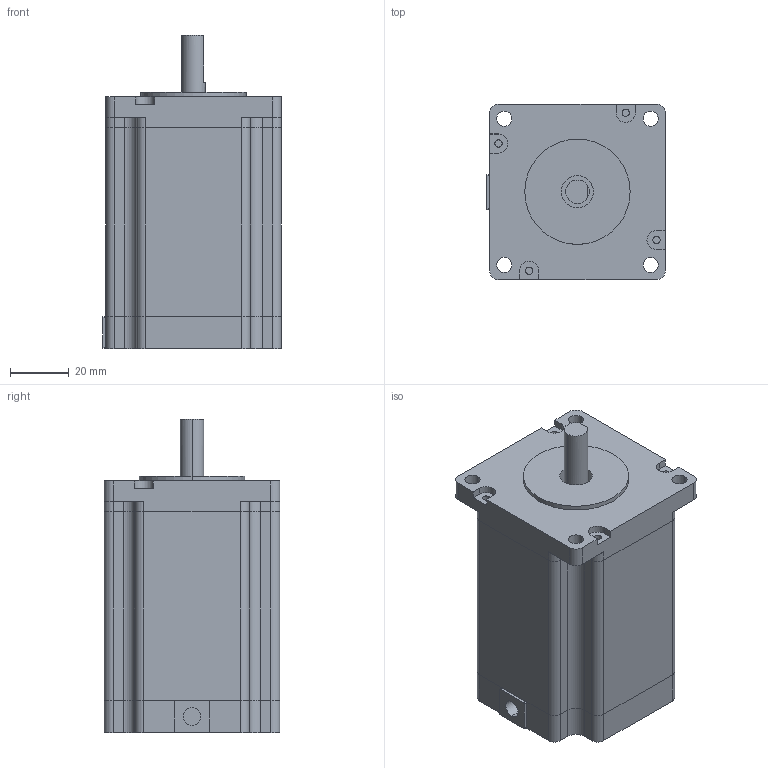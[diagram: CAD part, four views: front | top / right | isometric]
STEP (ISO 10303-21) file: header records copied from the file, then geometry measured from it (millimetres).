
FILE_DESCRIPTION((''),'2;1');
FILE_NAME('QL60HD86-04A','2022-07-02T17:04:33',('qingl'),(''),'CREO PARAMETRIC BY PTC INC, 2019224','CREO PARAMETRIC BY PTC INC, 2019224','');
FILE_SCHEMA(('CONFIG_CONTROL_DESIGN'));
Length unit declared in the file: millimetre
Products named in the file (1): QL60HD86-04A
Bounding box: 61 x 60 x 107 mm (x, y, z)
Volume: 275300 mm3; surface area: 28547.7 mm2
Topology: 1 solids, 1 shells, 268 faces, 711 edges, 459 vertices
Faces by surface type: cylinder 182, plane 78, bspline 8
Entity records: 11889 total; most frequent: CARTESIAN_POINT 5509, ORIENTED_EDGE 1422, DIRECTION 1164, EDGE_CURVE 711, VERTEX_POINT 459, AXIS2_PLACEMENT_3D 413, VECTOR 338, LINE 338
